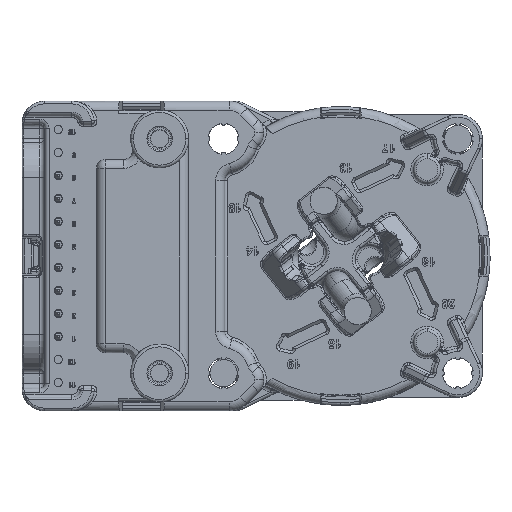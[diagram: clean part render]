
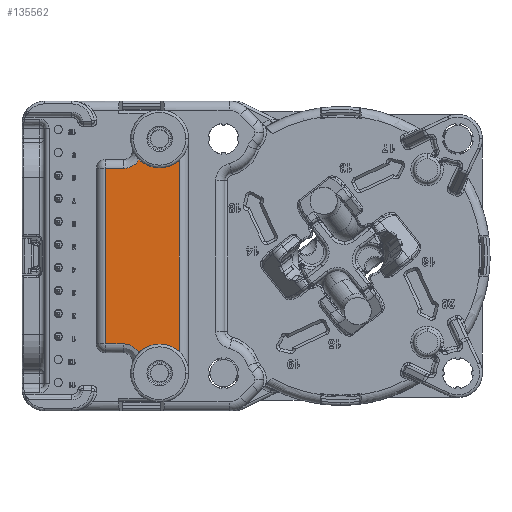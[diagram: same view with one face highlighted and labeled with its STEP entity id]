
A CAD part, left-side view. The second image highlights one B-rep face of the part: STEP entity #135562.
In plain terms, the highlighted planar face has unit normal (-1, 0, 0).
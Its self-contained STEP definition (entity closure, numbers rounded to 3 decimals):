
#3095 = DIRECTION ( 'NONE',  ( 0., 1., 0. ) ) ;
#5274 = CARTESIAN_POINT ( 'NONE',  ( 11.549, -12.981, 8.199 ) ) ;
#5980 = ORIENTED_EDGE ( 'NONE', *, *, #171655, .T. ) ;
#14642 = CARTESIAN_POINT ( 'NONE',  ( 11.549, -16.368, 28.139 ) ) ;
#16082 = CARTESIAN_POINT ( 'NONE',  ( 11.549, -15.314, 8.166 ) ) ;
#17031 = CARTESIAN_POINT ( 'NONE',  ( 11.549, -16.211, 27.999 ) ) ;
#17676 = ORIENTED_EDGE ( 'NONE', *, *, #236573, .F. ) ;
#23315 = CARTESIAN_POINT ( 'NONE',  ( 11.549, -12.776, 29.113 ) ) ;
#23607 = LINE ( 'NONE', #151848, #175814 ) ;
#25800 = LINE ( 'NONE', #5274, #149928 ) ;
#30259 = CARTESIAN_POINT ( 'NONE',  ( 11.549, -12.984, 27.566 ) ) ;
#33719 = VERTEX_POINT ( 'NONE', #211138 ) ;
#33973 = CARTESIAN_POINT ( 'NONE',  ( 11.549, -16.418, 28.189 ) ) ;
#34219 = CARTESIAN_POINT ( 'NONE',  ( 11.549, -16.544, 7.411 ) ) ;
#35190 = CARTESIAN_POINT ( 'NONE',  ( 11.549, -15.728, 27.714 ) ) ;
#35425 = CARTESIAN_POINT ( 'NONE',  ( 11.549, -15.718, 8.048 ) ) ;
#36606 = CARTESIAN_POINT ( 'NONE',  ( 11.549, -15.003, 8.195 ) ) ;
#40299 = PLANE ( 'NONE',  #95673 ) ;
#41423 = EDGE_CURVE ( 'NONE', #220965, #226375, #63193, .T. ) ;
#44881 = CARTESIAN_POINT ( 'NONE',  ( 11.549, -18.97, 4.956 ) ) ;
#47461 = VERTEX_POINT ( 'NONE', #170361 ) ;
#50910 = CARTESIAN_POINT ( 'NONE',  ( 11.549, -15.044, 27.567 ) ) ;
#51142 = CARTESIAN_POINT ( 'NONE',  ( 11.549, -16.501, 7.467 ) ) ;
#52759 = CARTESIAN_POINT ( 'NONE',  ( 11.549, -12.984, 27.566 ) ) ;
#53549 = CARTESIAN_POINT ( 'NONE',  ( 11.549, -16.089, 7.847 ) ) ;
#53919 = B_SPLINE_CURVE_WITH_KNOTS ( 'NONE', 3,
 ( #88684, #36606, #236207, #71696, #146697, #238608, #16082, #108024, #220464, #162438, #35425, #74088, #181789, #89883, #53549, #127367, #54737, #129728, #203467, #51142, #34219, #128553, #124963, #201112 ),
 .UNSPECIFIED., .F., .F.,
 ( 4, 2, 2, 2, 2, 2, 2, 2, 2, 2, 2, 4 ),
 ( 0., 0.049, 0.099, 0.2, 0.302, 0.403, 0.505, 0.606, 0.707, 0.809, 0.91, 1. ),
 .UNSPECIFIED. ) ;
#54737 = CARTESIAN_POINT ( 'NONE',  ( 11.549, -16.256, 7.718 ) ) ;
#55674 = CARTESIAN_POINT ( 'NONE',  ( 11.549, -15.918, 27.804 ) ) ;
#63193 = LINE ( 'NONE', #230071, #223711 ) ;
#63272 = DIRECTION ( 'NONE',  ( 0., 0.709, -0.705 ) ) ;
#66624 = DIRECTION ( 'NONE',  ( 0., -0.684, 0.729 ) ) ;
#70260 = CARTESIAN_POINT ( 'NONE',  ( 11.549, -15.115, 27.57 ) ) ;
#71696 = CARTESIAN_POINT ( 'NONE',  ( 11.549, -15.106, 8.191 ) ) ;
#73963 = AXIS2_PLACEMENT_3D ( 'NONE', #137075, #158798, #63272 ) ;
#74088 = CARTESIAN_POINT ( 'NONE',  ( 11.549, -15.846, 7.99 ) ) ;
#77692 = B_SPLINE_CURVE_WITH_KNOTS ( 'NONE', 3,
 ( #216634, #50910, #70260, #127125, #198475, #92026, #147630, #88450, #35190, #217829, #55674, #106595, #180343, #17031, #199673, #14642, #33973, #107787, #181553, #89648, #163412, #108986 ),
 .UNSPECIFIED., .F., .F.,
 ( 4, 2, 2, 2, 2, 2, 2, 2, 2, 2, 4 ),
 ( 0., 0.1, 0.201, 0.301, 0.402, 0.502, 0.603, 0.703, 0.803, 0.904, 1. ),
 .UNSPECIFIED. ) ;
#80611 = VERTEX_POINT ( 'NONE', #30259 ) ;
#83278 = CARTESIAN_POINT ( 'NONE',  ( 11.549, -21.158, 7.29 ) ) ;
#88450 = CARTESIAN_POINT ( 'NONE',  ( 11.549, -15.663, 27.688 ) ) ;
#88684 = CARTESIAN_POINT ( 'NONE',  ( 11.549, -14.968, 8.196 ) ) ;
#89648 = CARTESIAN_POINT ( 'NONE',  ( 11.549, -16.633, 28.463 ) ) ;
#89883 = CARTESIAN_POINT ( 'NONE',  ( 11.549, -16.03, 7.886 ) ) ;
#91482 = DIRECTION ( 'NONE',  ( 0., 0., -1. ) ) ;
#92026 = CARTESIAN_POINT ( 'NONE',  ( 11.549, -15.461, 27.626 ) ) ;
#93530 = ORIENTED_EDGE ( 'NONE', *, *, #41423, .F. ) ;
#93953 = ORIENTED_EDGE ( 'NONE', *, *, #170075, .F. ) ;
#95673 = AXIS2_PLACEMENT_3D ( 'NONE', #23315, #204800, #97128 ) ;
#97128 = DIRECTION ( 'NONE',  ( 0., 0., 1. ) ) ;
#99616 = DIRECTION ( 'NONE',  ( 0., -1., -0.002 ) ) ;
#106595 = CARTESIAN_POINT ( 'NONE',  ( 11.549, -16.04, 27.876 ) ) ;
#107250 = LINE ( 'NONE', #52759, #211697 ) ;
#107787 = CARTESIAN_POINT ( 'NONE',  ( 11.549, -16.51, 28.295 ) ) ;
#108024 = CARTESIAN_POINT ( 'NONE',  ( 11.549, -15.451, 8.136 ) ) ;
#108986 = CARTESIAN_POINT ( 'NONE',  ( 11.549, -16.701, 28.579 ) ) ;
#110155 = EDGE_CURVE ( 'NONE', #118187, #220965, #178218, .T. ) ;
#112913 = FACE_OUTER_BOUND ( 'NONE', #237723, .T. ) ;
#114195 = CARTESIAN_POINT ( 'NONE',  ( 11.549, -16.701, 28.579 ) ) ;
#118187 = VERTEX_POINT ( 'NONE', #114195 ) ;
#118688 = DIRECTION ( 'NONE',  ( -1., 0., 0. ) ) ;
#124963 = CARTESIAN_POINT ( 'NONE',  ( 11.549, -16.654, 7.25 ) ) ;
#127125 = CARTESIAN_POINT ( 'NONE',  ( 11.549, -15.254, 27.585 ) ) ;
#127367 = CARTESIAN_POINT ( 'NONE',  ( 11.549, -16.202, 7.763 ) ) ;
#128553 = CARTESIAN_POINT ( 'NONE',  ( 11.549, -16.62, 7.303 ) ) ;
#129728 = CARTESIAN_POINT ( 'NONE',  ( 11.549, -16.359, 7.623 ) ) ;
#135562 = ADVANCED_FACE ( 'NONE', ( #112913 ), #40299, .T. ) ;
#135653 = CARTESIAN_POINT ( 'NONE',  ( 11.549, -21.158, 28.502 ) ) ;
#137075 = CARTESIAN_POINT ( 'NONE',  ( 11.549, -18.97, 30.836 ) ) ;
#143534 = VERTEX_POINT ( 'NONE', #186786 ) ;
#146697 = CARTESIAN_POINT ( 'NONE',  ( 11.549, -15.14, 8.188 ) ) ;
#147630 = CARTESIAN_POINT ( 'NONE',  ( 11.549, -15.529, 27.644 ) ) ;
#149928 = VECTOR ( 'NONE', #99616, 1000. ) ;
#151220 = EDGE_CURVE ( 'NONE', #33719, #216972, #53919, .T. ) ;
#151848 = CARTESIAN_POINT ( 'NONE',  ( 11.549, -14.974, 27.566 ) ) ;
#154407 = ORIENTED_EDGE ( 'NONE', *, *, #190555, .T. ) ;
#155124 = DIRECTION ( 'NONE',  ( 0., 0., -1. ) ) ;
#158798 = DIRECTION ( 'NONE',  ( -1., 0., 0. ) ) ;
#160724 = ORIENTED_EDGE ( 'NONE', *, *, #110155, .F. ) ;
#162438 = CARTESIAN_POINT ( 'NONE',  ( 11.549, -15.653, 8.074 ) ) ;
#163412 = CARTESIAN_POINT ( 'NONE',  ( 11.549, -16.669, 28.52 ) ) ;
#166032 = CIRCLE ( 'NONE', #220069, 3.2 ) ;
#169687 = ORIENTED_EDGE ( 'NONE', *, *, #151220, .T. ) ;
#170075 = EDGE_CURVE ( 'NONE', #47461, #118187, #77692, .T. ) ;
#170361 = CARTESIAN_POINT ( 'NONE',  ( 11.549, -14.974, 27.566 ) ) ;
#171655 = EDGE_CURVE ( 'NONE', #80611, #143534, #107250, .T. ) ;
#175814 = VECTOR ( 'NONE', #3095, 1000. ) ;
#176403 = ORIENTED_EDGE ( 'NONE', *, *, #223398, .T. ) ;
#177562 = CARTESIAN_POINT ( 'NONE',  ( 11.549, -16.685, 7.196 ) ) ;
#178218 = CIRCLE ( 'NONE', #73963, 3.2 ) ;
#180343 = CARTESIAN_POINT ( 'NONE',  ( 11.549, -16.098, 27.915 ) ) ;
#181553 = CARTESIAN_POINT ( 'NONE',  ( 11.549, -16.554, 28.35 ) ) ;
#181789 = CARTESIAN_POINT ( 'NONE',  ( 11.549, -15.909, 7.957 ) ) ;
#186786 = CARTESIAN_POINT ( 'NONE',  ( 11.549, -12.981, 8.199 ) ) ;
#190555 = EDGE_CURVE ( 'NONE', #143534, #33719, #25800, .T. ) ;
#198475 = CARTESIAN_POINT ( 'NONE',  ( 11.549, -15.324, 27.596 ) ) ;
#199673 = CARTESIAN_POINT ( 'NONE',  ( 11.549, -16.265, 28.043 ) ) ;
#201112 = CARTESIAN_POINT ( 'NONE',  ( 11.549, -16.685, 7.196 ) ) ;
#203467 = CARTESIAN_POINT ( 'NONE',  ( 11.549, -16.408, 7.572 ) ) ;
#204800 = DIRECTION ( 'NONE',  ( -1., 0., 0. ) ) ;
#211138 = CARTESIAN_POINT ( 'NONE',  ( 11.549, -14.968, 8.196 ) ) ;
#211697 = VECTOR ( 'NONE', #91482, 1000. ) ;
#216634 = CARTESIAN_POINT ( 'NONE',  ( 11.549, -14.974, 27.566 ) ) ;
#216972 = VERTEX_POINT ( 'NONE', #177562 ) ;
#217829 = CARTESIAN_POINT ( 'NONE',  ( 11.549, -15.856, 27.772 ) ) ;
#220069 = AXIS2_PLACEMENT_3D ( 'NONE', #44881, #118688, #66624 ) ;
#220464 = CARTESIAN_POINT ( 'NONE',  ( 11.549, -15.519, 8.118 ) ) ;
#220965 = VERTEX_POINT ( 'NONE', #135653 ) ;
#223398 = EDGE_CURVE ( 'NONE', #47461, #80611, #23607, .T. ) ;
#223711 = VECTOR ( 'NONE', #155124, 1000. ) ;
#226375 = VERTEX_POINT ( 'NONE', #83278 ) ;
#230071 = CARTESIAN_POINT ( 'NONE',  ( 11.549, -21.158, 28.502 ) ) ;
#236207 = CARTESIAN_POINT ( 'NONE',  ( 11.549, -15.037, 8.194 ) ) ;
#236573 = EDGE_CURVE ( 'NONE', #226375, #216972, #166032, .T. ) ;
#237723 = EDGE_LOOP ( 'NONE', ( #17676, #93530, #160724, #93953, #176403, #5980, #154407, #169687 ) ) ;
#238608 = CARTESIAN_POINT ( 'NONE',  ( 11.549, -15.244, 8.177 ) ) ;
